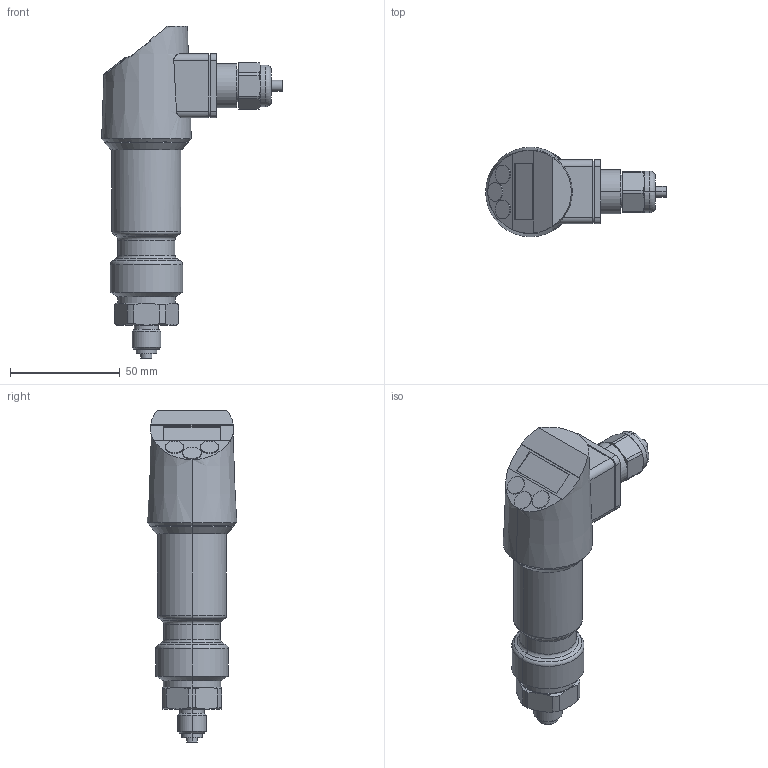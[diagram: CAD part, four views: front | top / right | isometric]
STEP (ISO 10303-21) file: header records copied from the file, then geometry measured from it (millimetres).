
FILE_DESCRIPTION(('starvars output'),'1');
FILE_NAME('cv20241203091159000015633.stp','09:11:59 2024/12/03',('Thomas Industrial Network Germany GmbH'),(' '),'Spatial InterOp 3D',' ',' ');
FILE_SCHEMA(('AP242_MANAGED_MODEL_BASED_3D_ENGINEERING_MIM_LF {1 0 10303 442 2 1 4}'));
Length unit declared in the file: millimetre
Products named in the file (1): 1
Bounding box: 82.45 x 40.9 x 151.5 mm (x, y, z)
Volume: 137072.6 mm3; surface area: 20725.2 mm2
Topology: 1 solids, 1 shells, 162 faces, 375 edges, 233 vertices
Faces by surface type: cylinder 58, plane 54, cone 40, torus 10
Entity records: 6039 total; most frequent: CARTESIAN_POINT 996, DIRECTION 844, ORIENTED_EDGE 750, EDGE_CURVE 375, AXIS2_PLACEMENT_3D 348, VERTEX_POINT 233, EDGE_LOOP 180, CIRCLE 175
